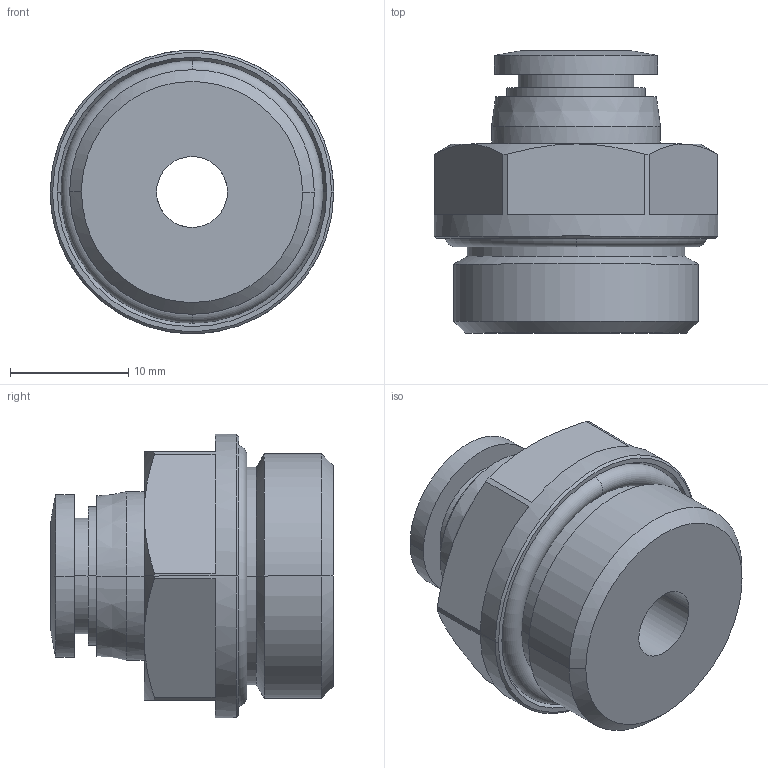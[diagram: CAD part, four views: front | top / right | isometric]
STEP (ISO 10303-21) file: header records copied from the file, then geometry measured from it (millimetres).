
FILE_DESCRIPTION (( 'STEP AP203' ), '1' );
FILE_NAME ('FH08-04.STEP', '2020-04-28T13:40:34', ( '' ), ( '' ), 'SwSTEP 2.0', 'SolidWorks 2019', '' );
FILE_SCHEMA (( 'CONFIG_CONTROL_DESIGN' ));
Length unit declared in the file: millimetre
Products named in the file (1): FH08-04
Bounding box: 24 x 23.9 x 24 mm (x, y, z)
Surface area: 3508.6 mm2 (no closed solid volume)
Topology: 0 solids, 4 shells, 67 faces, 156 edges, 99 vertices
Faces by surface type: plane 22, cylinder 20, cone 19, torus 6
Entity records: 3272 total; most frequent: CARTESIAN_POINT 1905, ORIENTED_EDGE 296, DIRECTION 181, EDGE_CURVE 156, B_SPLINE_CURVE_WITH_KNOTS 117, VERTEX_POINT 99, EDGE_LOOP 77, AXIS2_PLACEMENT_3D 74
